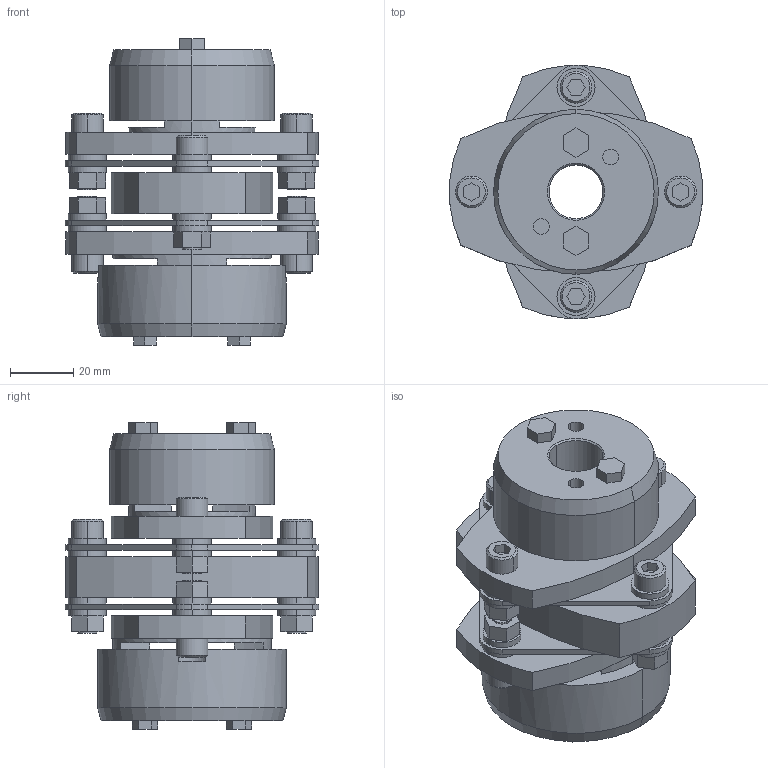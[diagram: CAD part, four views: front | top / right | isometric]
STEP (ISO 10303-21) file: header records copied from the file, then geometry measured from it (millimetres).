
FILE_DESCRIPTION((''),'2;1');
FILE_NAME('LCD-80T7-17×30.stp','2011-09-15T13:19:52',(''),(''),'AutoCAD STEP 2000i','AutoCAD 2000i',', , ');
FILE_SCHEMA(('CONFIG_CONTROL_DESIGN'));
Length unit declared in the file: millimetre
Products named in the file (10): LCD-80T7-17×30; 忣兜1; LC80T7-T030; LC80T7-T028; LC80T7-T024; LC80T7-T022; LC80T7-T019; LC80T7-T017-1; LC80T7-T017; LCD80-ITA
Assembly tree (9 placements, depth 2):
  LCD-80T7-17×30
    忣兜1
    LC80T7-T030
    LC80T7-T028
    LC80T7-T024
    LC80T7-T022
    LC80T7-T019
    LC80T7-T017-1
    LC80T7-T017
    LCD80-ITA
Bounding box: 80 x 79.95 x 96.8 mm (x, y, z)
Volume: 185127.1 mm3; surface area: 57939.4 mm2
Topology: 1 solids, 1 shells, 324 faces, 792 edges, 520 vertices
Faces by surface type: plane 178, cylinder 122, cone 24
Entity records: 9845 total; most frequent: DIRECTION 1748, CARTESIAN_POINT 1646, ORIENTED_EDGE 1584, EDGE_CURVE 792, AXIS2_PLACEMENT_3D 622, VERTEX_POINT 520, VECTOR 504, LINE 504
